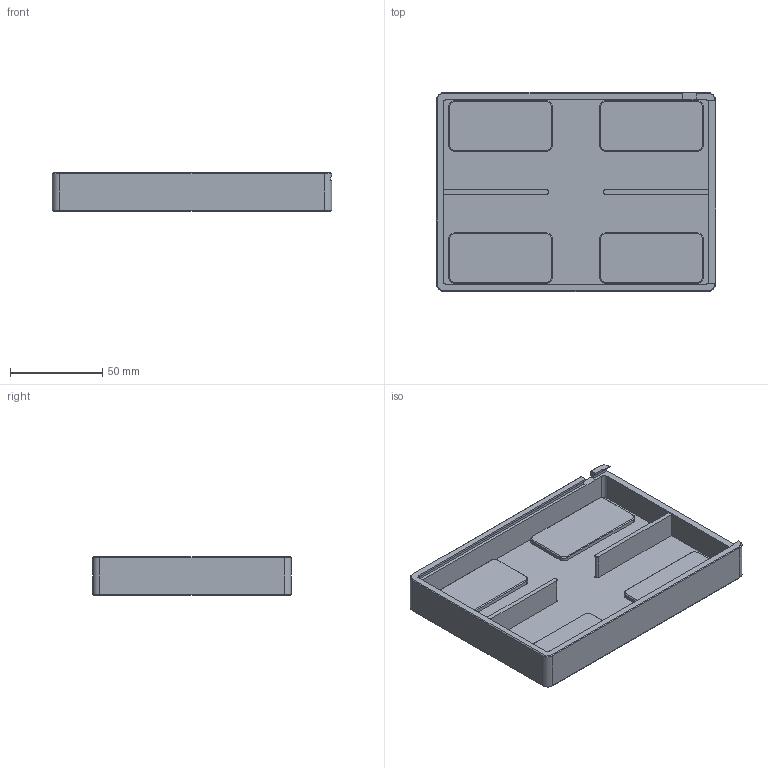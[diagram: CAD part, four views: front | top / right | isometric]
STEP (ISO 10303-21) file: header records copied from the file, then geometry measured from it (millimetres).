
FILE_DESCRIPTION(('Open CASCADE Model'),'2;1');
FILE_NAME('tray','2026-11-17T15:34:02',('Author'),('Open CASCADE'), 'Open CASCADE STEP processor 8.0','build123d','Unknown');
FILE_SCHEMA(('AUTOMOTIVE_DESIGN { 1 0 10303 214 1 1 1 1 }'));
Length unit declared in the file: millimetre
Products named in the file (1): tray
Bounding box: 151.6 x 108 x 20.95 mm (x, y, z)
Volume: 84110.7 mm3; surface area: 56715.3 mm2
Topology: 1 solids, 1 shells, 142 faces, 358 edges, 222 vertices
Faces by surface type: plane 86, cylinder 32, cone 24
Entity records: 8814 total; most frequent: CARTESIAN_POINT 1989, DIRECTION 1180, ORIENTED_EDGE 716, PCURVE 716, DEFINITIONAL_REPRESENTATION 716, LINE 692, VECTOR 692, EDGE_CURVE 358
